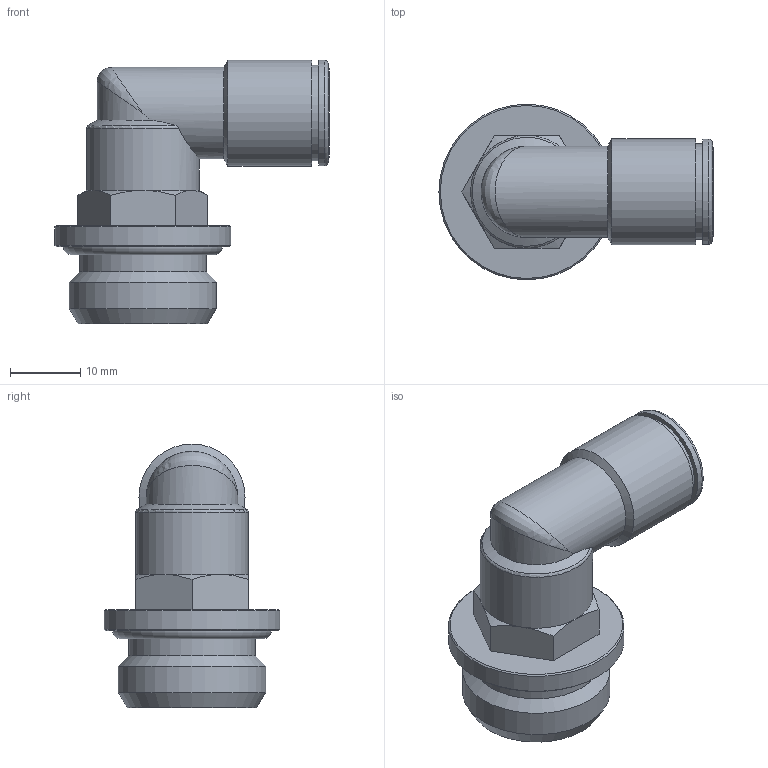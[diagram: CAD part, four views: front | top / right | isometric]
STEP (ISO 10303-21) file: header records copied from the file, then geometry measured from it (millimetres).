
FILE_DESCRIPTION(/* description */ (''),/* implementation_level */ '2;1');
FILE_NAME(/* name */ 'V202224_IPSO_022_FKM_10_12_23.06.2016',/* time_stamp */ '2016-06-23T10:26:11+02:00',/* author */ (''),/* organization */ (''),/* preprocessor_version */ 'ST-DEVELOPER v16.5',/* originating_system */ 'HiCAD 2016 2101.0 Build 254',/* authorisation */ '');
FILE_SCHEMA (('AUTOMOTIVE_DESIGN { 1 0 10303 214 1 1 1 1 }'));
Length unit declared in the file: millimetre
Products named in the file (5): Root; DR10-N; OR 17.12X2.62; 214630; R202208-i1
Assembly tree (4 placements, depth 2):
  Root
    DR10-N
    OR 17.12X2.62
    214630
    R202208-i1
Bounding box: 39 x 25 x 37.55 mm (x, y, z)
Volume: 6201.2 mm3; surface area: 7750.8 mm2
Topology: 4 solids, 4 shells, 74 faces, 162 edges, 98 vertices
Faces by surface type: cone 27, cylinder 22, plane 19, torus 5, bspline 1
Full cylindrical faces by diameter (mm): 8 x2, 10.2 x2, 12.2 x2, 12.3 x1, 13 x2, 13.5 x2, 13.6 x1, 13.7 x1, 14.5 x1, 15 x1, 15.1 x1, 16 x1, 18 x1, 20.955 x1, 25 x1
Entity records: 3829 total; most frequent: CARTESIAN_POINT 1321, DIRECTION 328, PRESENTATION_STYLE_ASSIGNMENT 210, COLOUR_RGB 208, DRAUGHTING_PRE_DEFINED_CURVE_FONT 206, CURVE_STYLE 206, OVER_RIDING_STYLED_ITEM 206, ORIENTED_EDGE 206
